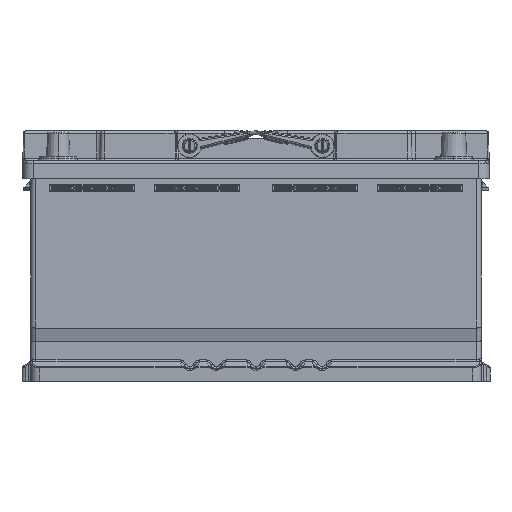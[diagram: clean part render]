
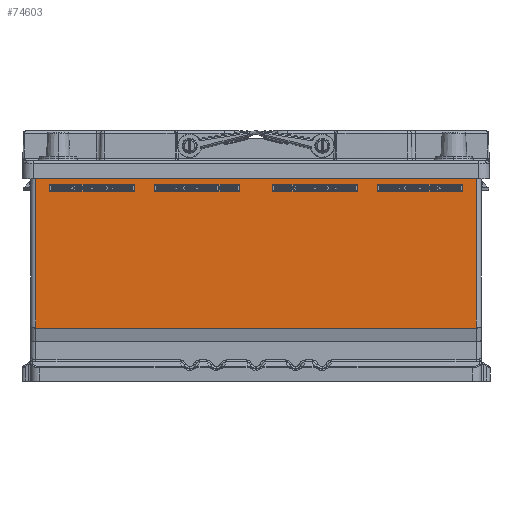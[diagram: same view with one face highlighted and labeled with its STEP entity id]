
A CAD part, front view. The second image highlights one B-rep face of the part: STEP entity #74603.
In plain terms, the highlighted planar face has unit normal (0, -1, 0).
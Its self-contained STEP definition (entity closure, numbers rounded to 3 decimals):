
#42004=CARTESIAN_POINT('Vertex',(-165.75,-83.05,40.)) ;
#42007=CARTESIAN_POINT('Line Origine',(-165.75,-83.05,40.)) ;
#42011=CARTESIAN_POINT('Vertex',(-165.75,-83.05,161.)) ;
#45904=CARTESIAN_POINT('Line Origine',(0.,-83.05,161.)) ;
#45908=CARTESIAN_POINT('Vertex',(165.75,-83.05,161.)) ;
#51956=CARTESIAN_POINT('Vertex',(165.75,-83.05,40.)) ;
#51976=CARTESIAN_POINT('Line Origine',(165.75,-83.05,40.)) ;
#74451=CARTESIAN_POINT('Axis2P3D Location',(-169.75,-83.05,40.)) ;
#74456=CARTESIAN_POINT('Line Origine',(0.,-83.05,40.)) ;
#74467=CARTESIAN_POINT('Line Origine',(123.5,-83.05,143.)) ;
#74471=CARTESIAN_POINT('Vertex',(155.25,-83.05,143.)) ;
#74473=CARTESIAN_POINT('Vertex',(91.75,-83.05,143.)) ;
#74476=CARTESIAN_POINT('Line Origine',(91.75,-83.05,145.522)) ;
#74480=CARTESIAN_POINT('Vertex',(91.75,-83.05,148.044)) ;
#74483=CARTESIAN_POINT('Line Origine',(123.5,-83.05,148.044)) ;
#74487=CARTESIAN_POINT('Vertex',(155.25,-83.05,148.044)) ;
#74490=CARTESIAN_POINT('Line Origine',(155.25,-83.05,145.522)) ;
#74501=CARTESIAN_POINT('Line Origine',(44.5,-83.05,143.)) ;
#74505=CARTESIAN_POINT('Vertex',(76.25,-83.05,143.)) ;
#74507=CARTESIAN_POINT('Vertex',(12.75,-83.05,143.)) ;
#74510=CARTESIAN_POINT('Line Origine',(12.75,-83.05,145.522)) ;
#74514=CARTESIAN_POINT('Vertex',(12.75,-83.05,148.044)) ;
#74517=CARTESIAN_POINT('Line Origine',(44.5,-83.05,148.044)) ;
#74521=CARTESIAN_POINT('Vertex',(76.25,-83.05,148.044)) ;
#74524=CARTESIAN_POINT('Line Origine',(76.25,-83.05,145.522)) ;
#74535=CARTESIAN_POINT('Line Origine',(-91.75,-83.05,145.522)) ;
#74539=CARTESIAN_POINT('Vertex',(-91.75,-83.05,143.)) ;
#74541=CARTESIAN_POINT('Vertex',(-91.75,-83.05,148.044)) ;
#74544=CARTESIAN_POINT('Line Origine',(-123.5,-83.05,143.)) ;
#74548=CARTESIAN_POINT('Vertex',(-155.25,-83.05,143.)) ;
#74551=CARTESIAN_POINT('Line Origine',(-155.25,-83.05,145.522)) ;
#74555=CARTESIAN_POINT('Vertex',(-155.25,-83.05,148.044)) ;
#74558=CARTESIAN_POINT('Line Origine',(-123.5,-83.05,148.044)) ;
#74569=CARTESIAN_POINT('Line Origine',(-12.75,-83.05,145.522)) ;
#74573=CARTESIAN_POINT('Vertex',(-12.75,-83.05,143.)) ;
#74575=CARTESIAN_POINT('Vertex',(-12.75,-83.05,148.044)) ;
#74578=CARTESIAN_POINT('Line Origine',(-44.5,-83.05,143.)) ;
#74582=CARTESIAN_POINT('Vertex',(-76.25,-83.05,143.)) ;
#74585=CARTESIAN_POINT('Line Origine',(-76.25,-83.05,145.522)) ;
#74589=CARTESIAN_POINT('Vertex',(-76.25,-83.05,148.044)) ;
#74592=CARTESIAN_POINT('Line Origine',(-44.5,-83.05,148.044)) ;
#42008=DIRECTION('Vector Direction',(0.,0.,1.)) ;
#45905=DIRECTION('Vector Direction',(1.,0.,0.)) ;
#51977=DIRECTION('Vector Direction',(0.,0.,1.)) ;
#74452=DIRECTION('Axis2P3D Direction',(0.,-1.,0.)) ;
#74453=DIRECTION('Axis2P3D XDirection',(1.,0.,0.)) ;
#74457=DIRECTION('Vector Direction',(1.,0.,0.)) ;
#74468=DIRECTION('Vector Direction',(-1.,0.,0.)) ;
#74477=DIRECTION('Vector Direction',(0.,0.,1.)) ;
#74484=DIRECTION('Vector Direction',(1.,0.,0.)) ;
#74491=DIRECTION('Vector Direction',(0.,0.,-1.)) ;
#74502=DIRECTION('Vector Direction',(-1.,0.,0.)) ;
#74511=DIRECTION('Vector Direction',(0.,0.,1.)) ;
#74518=DIRECTION('Vector Direction',(1.,0.,0.)) ;
#74525=DIRECTION('Vector Direction',(0.,0.,-1.)) ;
#74536=DIRECTION('Vector Direction',(0.,0.,1.)) ;
#74545=DIRECTION('Vector Direction',(-1.,0.,0.)) ;
#74552=DIRECTION('Vector Direction',(0.,0.,-1.)) ;
#74559=DIRECTION('Vector Direction',(1.,0.,0.)) ;
#74570=DIRECTION('Vector Direction',(0.,0.,1.)) ;
#74579=DIRECTION('Vector Direction',(-1.,0.,0.)) ;
#74586=DIRECTION('Vector Direction',(0.,0.,-1.)) ;
#74593=DIRECTION('Vector Direction',(1.,0.,0.)) ;
#74454=AXIS2_PLACEMENT_3D('Plane Axis2P3D',#74451,#74452,#74453) ;
#74462=ORIENTED_EDGE('',*,*,#42013,.T.) ;
#74463=ORIENTED_EDGE('',*,*,#74460,.T.) ;
#74464=ORIENTED_EDGE('',*,*,#51980,.F.) ;
#74465=ORIENTED_EDGE('',*,*,#45910,.F.) ;
#74496=ORIENTED_EDGE('',*,*,#74475,.T.) ;
#74497=ORIENTED_EDGE('',*,*,#74482,.T.) ;
#74498=ORIENTED_EDGE('',*,*,#74489,.T.) ;
#74499=ORIENTED_EDGE('',*,*,#74494,.T.) ;
#74530=ORIENTED_EDGE('',*,*,#74509,.T.) ;
#74531=ORIENTED_EDGE('',*,*,#74516,.T.) ;
#74532=ORIENTED_EDGE('',*,*,#74523,.T.) ;
#74533=ORIENTED_EDGE('',*,*,#74528,.T.) ;
#74564=ORIENTED_EDGE('',*,*,#74543,.F.) ;
#74565=ORIENTED_EDGE('',*,*,#74550,.T.) ;
#74566=ORIENTED_EDGE('',*,*,#74557,.F.) ;
#74567=ORIENTED_EDGE('',*,*,#74562,.T.) ;
#74598=ORIENTED_EDGE('',*,*,#74577,.F.) ;
#74599=ORIENTED_EDGE('',*,*,#74584,.T.) ;
#74600=ORIENTED_EDGE('',*,*,#74591,.F.) ;
#74601=ORIENTED_EDGE('',*,*,#74596,.T.) ;
#74500=FACE_BOUND('',#74495,.T.) ;
#74534=FACE_BOUND('',#74529,.T.) ;
#74568=FACE_BOUND('',#74563,.T.) ;
#74602=FACE_BOUND('',#74597,.T.) ;
#42009=VECTOR('Line Direction',#42008,1.) ;
#45906=VECTOR('Line Direction',#45905,1.) ;
#51978=VECTOR('Line Direction',#51977,1.) ;
#74458=VECTOR('Line Direction',#74457,1.) ;
#74469=VECTOR('Line Direction',#74468,1.) ;
#74478=VECTOR('Line Direction',#74477,1.) ;
#74485=VECTOR('Line Direction',#74484,1.) ;
#74492=VECTOR('Line Direction',#74491,1.) ;
#74503=VECTOR('Line Direction',#74502,1.) ;
#74512=VECTOR('Line Direction',#74511,1.) ;
#74519=VECTOR('Line Direction',#74518,1.) ;
#74526=VECTOR('Line Direction',#74525,1.) ;
#74537=VECTOR('Line Direction',#74536,1.) ;
#74546=VECTOR('Line Direction',#74545,1.) ;
#74553=VECTOR('Line Direction',#74552,1.) ;
#74560=VECTOR('Line Direction',#74559,1.) ;
#74571=VECTOR('Line Direction',#74570,1.) ;
#74580=VECTOR('Line Direction',#74579,1.) ;
#74587=VECTOR('Line Direction',#74586,1.) ;
#74594=VECTOR('Line Direction',#74593,1.) ;
#74603=ADVANCED_FACE('AGM H8',(#74466,#74500,#74534,#74568,#74602),#74455,.T.) ;
#42013=EDGE_CURVE('',#42012,#42005,#42010,.F.) ;
#45910=EDGE_CURVE('',#42012,#45909,#45907,.T.) ;
#51980=EDGE_CURVE('',#45909,#51957,#51979,.F.) ;
#74460=EDGE_CURVE('',#42005,#51957,#74459,.T.) ;
#74475=EDGE_CURVE('',#74472,#74474,#74470,.T.) ;
#74482=EDGE_CURVE('',#74474,#74481,#74479,.T.) ;
#74489=EDGE_CURVE('',#74481,#74488,#74486,.T.) ;
#74494=EDGE_CURVE('',#74488,#74472,#74493,.T.) ;
#74509=EDGE_CURVE('',#74506,#74508,#74504,.T.) ;
#74516=EDGE_CURVE('',#74508,#74515,#74513,.T.) ;
#74523=EDGE_CURVE('',#74515,#74522,#74520,.T.) ;
#74528=EDGE_CURVE('',#74522,#74506,#74527,.T.) ;
#74543=EDGE_CURVE('',#74540,#74542,#74538,.T.) ;
#74550=EDGE_CURVE('',#74540,#74549,#74547,.T.) ;
#74557=EDGE_CURVE('',#74556,#74549,#74554,.T.) ;
#74562=EDGE_CURVE('',#74556,#74542,#74561,.T.) ;
#74577=EDGE_CURVE('',#74574,#74576,#74572,.T.) ;
#74584=EDGE_CURVE('',#74574,#74583,#74581,.T.) ;
#74591=EDGE_CURVE('',#74590,#74583,#74588,.T.) ;
#74596=EDGE_CURVE('',#74590,#74576,#74595,.T.) ;
#74461=EDGE_LOOP('',(#74462,#74463,#74464,#74465)) ;
#74495=EDGE_LOOP('',(#74496,#74497,#74498,#74499)) ;
#74529=EDGE_LOOP('',(#74530,#74531,#74532,#74533)) ;
#74563=EDGE_LOOP('',(#74564,#74565,#74566,#74567)) ;
#74597=EDGE_LOOP('',(#74598,#74599,#74600,#74601)) ;
#74466=FACE_OUTER_BOUND('',#74461,.T.) ;
#42010=LINE('Line',#42007,#42009) ;
#45907=LINE('Line',#45904,#45906) ;
#51979=LINE('Line',#51976,#51978) ;
#74459=LINE('Line',#74456,#74458) ;
#74470=LINE('Line',#74467,#74469) ;
#74479=LINE('Line',#74476,#74478) ;
#74486=LINE('Line',#74483,#74485) ;
#74493=LINE('Line',#74490,#74492) ;
#74504=LINE('Line',#74501,#74503) ;
#74513=LINE('Line',#74510,#74512) ;
#74520=LINE('Line',#74517,#74519) ;
#74527=LINE('Line',#74524,#74526) ;
#74538=LINE('Line',#74535,#74537) ;
#74547=LINE('Line',#74544,#74546) ;
#74554=LINE('Line',#74551,#74553) ;
#74561=LINE('Line',#74558,#74560) ;
#74572=LINE('Line',#74569,#74571) ;
#74581=LINE('Line',#74578,#74580) ;
#74588=LINE('Line',#74585,#74587) ;
#74595=LINE('Line',#74592,#74594) ;
#74455=PLANE('Plane',#74454) ;
#42005=VERTEX_POINT('',#42004) ;
#42012=VERTEX_POINT('',#42011) ;
#45909=VERTEX_POINT('',#45908) ;
#51957=VERTEX_POINT('',#51956) ;
#74472=VERTEX_POINT('',#74471) ;
#74474=VERTEX_POINT('',#74473) ;
#74481=VERTEX_POINT('',#74480) ;
#74488=VERTEX_POINT('',#74487) ;
#74506=VERTEX_POINT('',#74505) ;
#74508=VERTEX_POINT('',#74507) ;
#74515=VERTEX_POINT('',#74514) ;
#74522=VERTEX_POINT('',#74521) ;
#74540=VERTEX_POINT('',#74539) ;
#74542=VERTEX_POINT('',#74541) ;
#74549=VERTEX_POINT('',#74548) ;
#74556=VERTEX_POINT('',#74555) ;
#74574=VERTEX_POINT('',#74573) ;
#74576=VERTEX_POINT('',#74575) ;
#74583=VERTEX_POINT('',#74582) ;
#74590=VERTEX_POINT('',#74589) ;
